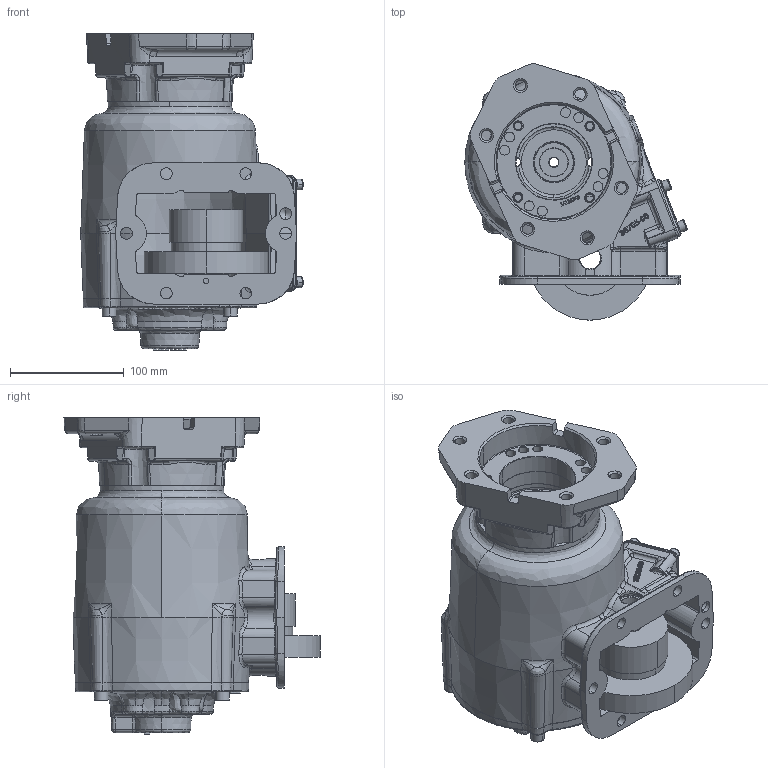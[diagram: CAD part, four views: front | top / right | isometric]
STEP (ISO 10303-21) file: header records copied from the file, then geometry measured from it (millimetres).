
FILE_DESCRIPTION (( 'STEP AP203' ), '1' );
FILE_NAME ('CS6S-XXXXX-X3ZX.STEP', '2011-11-29T20:06:49', ( 'User' ), ( 'Muncie Power Products, Inc.' ), 'SwSTEP 2.0', 'SolidWorks 2011', '' );
FILE_SCHEMA (( 'CONFIG_CONTROL_DESIGN' ));
Length unit declared in the file: inch
Products named in the file (3): CS6S-XXXXX-X3ZX; 14T38343; CS6S-XXXXX-X3DX
Assembly tree (2 placements, depth 2):
  CS6S-XXXXX-X3ZX
    14T38343
    CS6S-XXXXX-X3DX
Bounding box: 195.33 x 224.81 x 278.14 mm (x, y, z)
Volume: 1712052.8 mm3; surface area: 433195.8 mm2
Topology: 13 solids, 13 shells, 2483 faces, 6434 edges, 4026 vertices
Faces by surface type: bspline 1116, plane 590, cylinder 456, cone 272, torus 36, sphere 13
Entity records: 162709 total; most frequent: CARTESIAN_POINT 110425, ORIENTED_EDGE 12712, DIRECTION 7420, EDGE_CURVE 6356, VERTEX_POINT 4026, EDGE_LOOP 2718, B_SPLINE_CURVE_WITH_KNOTS 2674, FACE_OUTER_BOUND 2483
